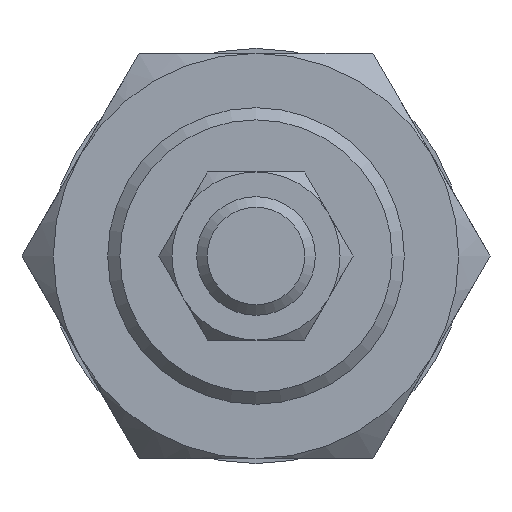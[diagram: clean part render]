
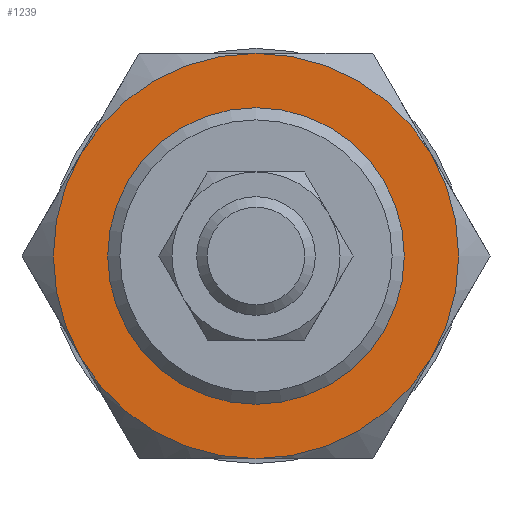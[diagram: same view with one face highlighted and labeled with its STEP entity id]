
A CAD part, left-side view. The second image highlights one B-rep face of the part: STEP entity #1239.
In plain terms, the highlighted planar face has unit normal (-1, 0, 0).
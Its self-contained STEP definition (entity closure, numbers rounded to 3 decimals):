
#160=PLANE('',#1378);
#366=ORIENTED_EDGE('',*,*,#619,.T.);
#367=ORIENTED_EDGE('',*,*,#624,.F.);
#368=ORIENTED_EDGE('',*,*,#623,.F.);
#369=ORIENTED_EDGE('',*,*,#625,.F.);
#370=ORIENTED_EDGE('',*,*,#622,.F.);
#371=ORIENTED_EDGE('',*,*,#621,.F.);
#372=ORIENTED_EDGE('',*,*,#620,.F.);
#619=EDGE_CURVE('',#767,#767,#852,.T.);
#620=EDGE_CURVE('',#759,#757,#853,.T.);
#621=EDGE_CURVE('',#757,#754,#854,.T.);
#622=EDGE_CURVE('',#754,#764,#855,.T.);
#623=EDGE_CURVE('',#763,#761,#856,.T.);
#624=EDGE_CURVE('',#761,#759,#857,.T.);
#625=EDGE_CURVE('',#764,#763,#858,.T.);
#754=VERTEX_POINT('',#2044);
#757=VERTEX_POINT('',#2061);
#759=VERTEX_POINT('',#2076);
#761=VERTEX_POINT('',#2090);
#763=VERTEX_POINT('',#2105);
#764=VERTEX_POINT('',#2119);
#767=VERTEX_POINT('',#2133);
#852=CIRCLE('',#1367,15.);
#853=CIRCLE('',#1369,20.5);
#854=CIRCLE('',#1371,20.5);
#855=CIRCLE('',#1373,20.5);
#856=CIRCLE('',#1375,20.5);
#857=CIRCLE('',#1377,20.5);
#858=CIRCLE('',#1379,20.5);
#964=EDGE_LOOP('',(#366));
#965=EDGE_LOOP('',(#367,#368,#369,#370,#371,#372));
#1105=FACE_BOUND('',#964,.T.);
#1106=FACE_BOUND('',#965,.T.);
#1239=ADVANCED_FACE('',(#1105,#1106),#160,.F.);
#1367=AXIS2_PLACEMENT_3D('',#2132,#1625,#1626);
#1369=AXIS2_PLACEMENT_3D('',#2135,#1629,#1630);
#1371=AXIS2_PLACEMENT_3D('',#2137,#1633,#1634);
#1373=AXIS2_PLACEMENT_3D('',#2139,#1637,#1638);
#1375=AXIS2_PLACEMENT_3D('',#2141,#1641,#1642);
#1377=AXIS2_PLACEMENT_3D('',#2143,#1645,#1646);
#1378=AXIS2_PLACEMENT_3D('',#2144,#1647,#1648);
#1379=AXIS2_PLACEMENT_3D('',#2145,#1649,#1650);
#1625=DIRECTION('',(1.,0.,0.));
#1626=DIRECTION('',(0.,0.,-1.));
#1629=DIRECTION('',(1.,0.,0.));
#1630=DIRECTION('',(0.,0.,-1.));
#1633=DIRECTION('',(1.,0.,0.));
#1634=DIRECTION('',(0.,0.,-1.));
#1637=DIRECTION('',(1.,0.,0.));
#1638=DIRECTION('',(0.,0.,-1.));
#1641=DIRECTION('',(1.,0.,0.));
#1642=DIRECTION('',(0.,0.,-1.));
#1645=DIRECTION('',(1.,0.,0.));
#1646=DIRECTION('',(0.,0.,-1.));
#1647=DIRECTION('',(1.,0.,0.));
#1648=DIRECTION('',(0.,0.,-1.));
#1649=DIRECTION('',(1.,0.,0.));
#1650=DIRECTION('',(0.,0.,-1.));
#2044=CARTESIAN_POINT('',(-11.,0.,20.5));
#2061=CARTESIAN_POINT('',(-11.,17.754,10.25));
#2076=CARTESIAN_POINT('',(-11.,17.754,-10.25));
#2090=CARTESIAN_POINT('',(-11.,0.,-20.5));
#2105=CARTESIAN_POINT('',(-11.,-17.754,-10.25));
#2119=CARTESIAN_POINT('',(-11.,-17.754,10.25));
#2132=CARTESIAN_POINT('',(-11.,0.,0.));
#2133=CARTESIAN_POINT('',(-11.,0.,-15.));
#2135=CARTESIAN_POINT('',(-11.,0.,0.));
#2137=CARTESIAN_POINT('',(-11.,0.,0.));
#2139=CARTESIAN_POINT('',(-11.,0.,0.));
#2141=CARTESIAN_POINT('',(-11.,0.,0.));
#2143=CARTESIAN_POINT('',(-11.,0.,0.));
#2144=CARTESIAN_POINT('',(-11.,0.,0.));
#2145=CARTESIAN_POINT('',(-11.,0.,0.));
